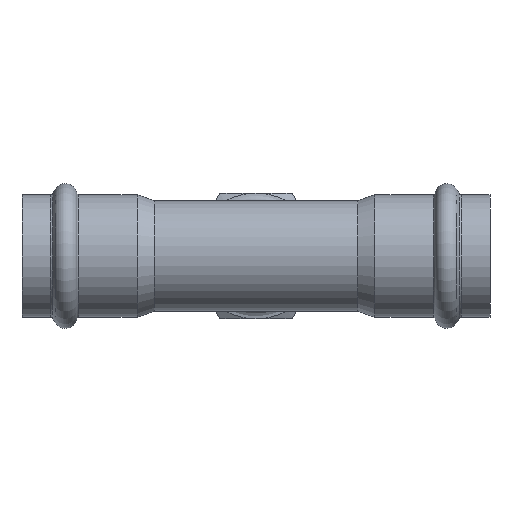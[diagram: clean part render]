
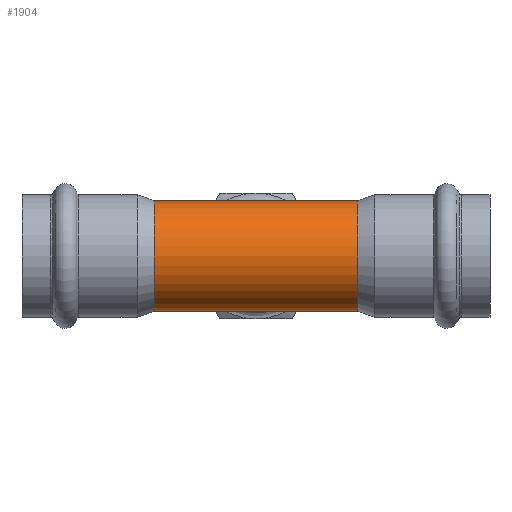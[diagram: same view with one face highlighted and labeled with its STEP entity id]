
A CAD part, front view. The second image highlights one B-rep face of the part: STEP entity #1904.
In plain terms, the highlighted cylindrical face has radius 14 mm (diameter 28 mm), a full revolution.
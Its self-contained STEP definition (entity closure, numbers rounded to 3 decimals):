
#1197=CARTESIAN_POINT('',(0.,0.0,-14.));
#1198=VERTEX_POINT('',#1197);
#1199=CARTESIAN_POINT('',(0.,0.0,14.));
#1200=VERTEX_POINT('',#1199);
#1208=CARTESIAN_POINT('',(0.0,0.,0.0));
#1209=DIRECTION('',(-0.682,0.731,0.));
#1210=DIRECTION('',(0.731,0.682,0.0));
#1211=AXIS2_PLACEMENT_3D('',#1208,#1209,#1210);
#1212=ELLIPSE('',#1211,20.518,14.);
#1213=EDGE_CURVE('',#1200,#1198,#1212,.T.);
#1370=CARTESIAN_POINT('',(0.0,0.,0.0));
#1371=DIRECTION('',(0.682,0.731,0.));
#1372=DIRECTION('',(-0.731,0.682,0.0));
#1373=AXIS2_PLACEMENT_3D('',#1370,#1371,#1372);
#1374=ELLIPSE('',#1373,20.518,14.0);
#1375=EDGE_CURVE('',#1198,#1200,#1374,.T.);
#1866=CARTESIAN_POINT('',(-25.84,14.0,0.0));
#1867=VERTEX_POINT('',#1866);
#1868=CARTESIAN_POINT('',(-25.84,0.,0.0));
#1869=DIRECTION('',(1.0,0.0,0.0));
#1870=DIRECTION('',(0.0,1.0,0.0));
#1871=AXIS2_PLACEMENT_3D('',#1868,#1869,#1870);
#1872=CIRCLE('',#1871,14.);
#1873=EDGE_CURVE('',#1867,#1867,#1872,.T.);
#1881=CARTESIAN_POINT('',(0.0,0.,0.0));
#1882=DIRECTION('',(1.0,0.,0.0));
#1883=DIRECTION('',(0.0,1.0,0.0));
#1884=AXIS2_PLACEMENT_3D('',#1881,#1882,#1883);
#1885=CYLINDRICAL_SURFACE('',#1884,14.);
#1886=CARTESIAN_POINT('',(25.84,14.,0.0));
#1887=VERTEX_POINT('',#1886);
#1888=CARTESIAN_POINT('',(25.84,0.,0.0));
#1889=DIRECTION('',(1.0,0.0,0.0));
#1890=DIRECTION('',(0.0,1.0,0.0));
#1891=AXIS2_PLACEMENT_3D('',#1888,#1889,#1890);
#1892=CIRCLE('',#1891,14.);
#1893=EDGE_CURVE('',#1887,#1887,#1892,.T.);
#1894=ORIENTED_EDGE('',*,*,#1893,.F.);
#1895=EDGE_LOOP('',(#1894));
#1896=FACE_OUTER_BOUND('',#1895,.T.);
#1897=ORIENTED_EDGE('',*,*,#1213,.F.);
#1898=ORIENTED_EDGE('',*,*,#1375,.F.);
#1899=EDGE_LOOP('',(#1897,#1898));
#1900=FACE_BOUND('',#1899,.T.);
#1901=ORIENTED_EDGE('',*,*,#1873,.T.);
#1902=EDGE_LOOP('',(#1901));
#1903=FACE_BOUND('',#1902,.T.);
#1904=ADVANCED_FACE('',(#1896,#1900,#1903),#1885,.T.);
